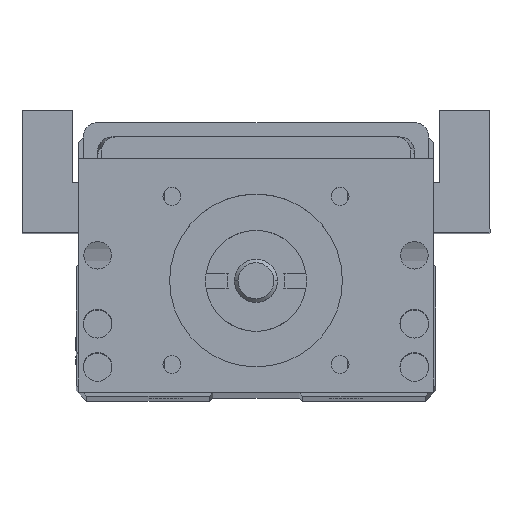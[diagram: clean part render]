
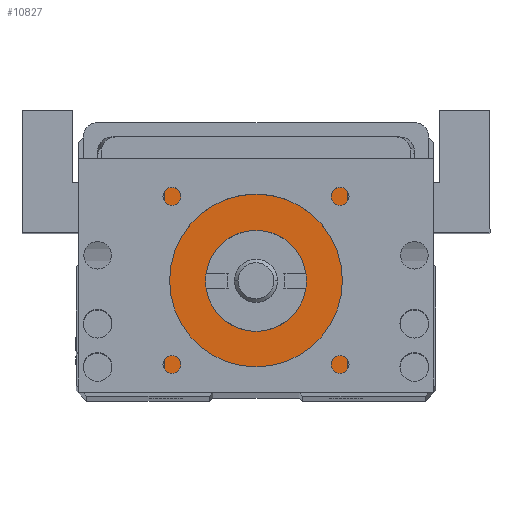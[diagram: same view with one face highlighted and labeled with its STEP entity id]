
A CAD part, top view. The second image highlights one B-rep face of the part: STEP entity #10827.
In plain terms, the highlighted planar face has unit normal (0, 0, 1).
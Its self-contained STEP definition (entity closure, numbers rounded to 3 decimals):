
#3090 = VERTEX_POINT ( 'NONE', #8402 ) ;
#3155 = EDGE_CURVE ( 'NONE', #3090, #3156, #8524, .T. ) ;
#3156 = VERTEX_POINT ( 'NONE', #8519 ) ;
#8402 = CARTESIAN_POINT ( 'NONE',  ( 7., 16., 221.5 ) ) ;
#8511 = DIRECTION ( 'NONE',  ( -1., 0., 0. ) ) ;
#8512 = DIRECTION ( 'NONE',  ( 0., 0., 1. ) ) ;
#8513 = CARTESIAN_POINT ( 'NONE',  ( 0., 16., 221.5 ) ) ;
#8514 = AXIS2_PLACEMENT_3D ( 'NONE', #8513, #8512, #8511 ) ;
#8519 = CARTESIAN_POINT ( 'NONE',  ( -7., 16., 221.5 ) ) ;
#8524 = CIRCLE ( 'NONE', #8514, 7. ) ;
#9477 = CARTESIAN_POINT ( 'NONE',  ( -14.7, 0., 221.5 ) ) ;
#9478 = FACE_BOUND ( 'NONE', #10901, .T. ) ;
#9479 = DIRECTION ( 'NONE',  ( -1., 0., 0. ) ) ;
#9480 = DIRECTION ( 'NONE',  ( 0., 0., -1. ) ) ;
#9481 = VECTOR ( 'NONE', #9479, 1000. ) ;
#9482 = PLANE ( 'NONE',  #9502 ) ;
#9483 = FACE_OUTER_BOUND ( 'NONE', #10850, .T. ) ;
#9485 = DIRECTION ( 'NONE',  ( 0., 1., 0. ) ) ;
#9486 = VECTOR ( 'NONE', #9485, 1000. ) ;
#9487 = CARTESIAN_POINT ( 'NONE',  ( 12.7, 33., 221.5 ) ) ;
#9488 = CARTESIAN_POINT ( 'NONE',  ( -6.008, 0.5, 221.5 ) ) ;
#9489 = LINE ( 'NONE', #9488, #9481 ) ;
#9494 = LINE ( 'NONE', #9487, #9486 ) ;
#9495 = CARTESIAN_POINT ( 'NONE',  ( -12.7, 33., 221.5 ) ) ;
#9502 = AXIS2_PLACEMENT_3D ( 'NONE', #9477, #9480, #9532 ) ;
#9532 = DIRECTION ( 'NONE',  ( -1., 0., 0. ) ) ;
#9536 = DIRECTION ( 'NONE',  ( -1., 0., 0. ) ) ;
#9537 = DIRECTION ( 'NONE',  ( 0., 0., 1. ) ) ;
#9542 = CIRCLE ( 'NONE', #9544, 7. ) ;
#9544 = AXIS2_PLACEMENT_3D ( 'NONE', #9569, #9537, #9536 ) ;
#9569 = CARTESIAN_POINT ( 'NONE',  ( 0., 16., 221.5 ) ) ;
#9590 = DIRECTION ( 'NONE',  ( 0., -1., 0. ) ) ;
#9591 = VECTOR ( 'NONE', #9590, 1000. ) ;
#9592 = CARTESIAN_POINT ( 'NONE',  ( -12.7, 0.5, 221.5 ) ) ;
#9597 = LINE ( 'NONE', #9592, #9591 ) ;
#9612 = CARTESIAN_POINT ( 'NONE',  ( 12.7, 33., 221.5 ) ) ;
#9614 = DIRECTION ( 'NONE',  ( -1., 0., 0. ) ) ;
#9615 = VECTOR ( 'NONE', #9614, 1000. ) ;
#9618 = CARTESIAN_POINT ( 'NONE',  ( -12.7, 0.5, 221.5 ) ) ;
#9619 = CARTESIAN_POINT ( 'NONE',  ( 12.7, 0.5, 221.5 ) ) ;
#9635 = CARTESIAN_POINT ( 'NONE',  ( -14.7, 33., 221.5 ) ) ;
#9636 = LINE ( 'NONE', #9635, #9615 ) ;
#10822 = EDGE_CURVE ( 'NONE', #10909, #10908, #9494, .T. ) ;
#10823 = EDGE_CURVE ( 'NONE', #10909, #10907, #9489, .T. ) ;
#10824 = VERTEX_POINT ( 'NONE', #9495 ) ;
#10825 = ORIENTED_EDGE ( 'NONE', *, *, #10823, .F. ) ;
#10827 = ADVANCED_FACE ( 'NONE', ( #9483, #9478 ), #9482, .F. ) ;
#10828 = ORIENTED_EDGE ( 'NONE', *, *, #10822, .T. ) ;
#10850 = EDGE_LOOP ( 'NONE', ( #10825, #10828, #10885, #10886 ) ) ;
#10866 = EDGE_CURVE ( 'NONE', #3156, #3090, #9542, .T. ) ;
#10870 = EDGE_CURVE ( 'NONE', #10824, #10907, #9597, .T. ) ;
#10883 = ORIENTED_EDGE ( 'NONE', *, *, #3155, .F. ) ;
#10885 = ORIENTED_EDGE ( 'NONE', *, *, #10893, .T. ) ;
#10886 = ORIENTED_EDGE ( 'NONE', *, *, #10870, .T. ) ;
#10889 = ORIENTED_EDGE ( 'NONE', *, *, #10866, .F. ) ;
#10893 = EDGE_CURVE ( 'NONE', #10908, #10824, #9636, .T. ) ;
#10901 = EDGE_LOOP ( 'NONE', ( #10889, #10883 ) ) ;
#10907 = VERTEX_POINT ( 'NONE', #9618 ) ;
#10908 = VERTEX_POINT ( 'NONE', #9612 ) ;
#10909 = VERTEX_POINT ( 'NONE', #9619 ) ;
